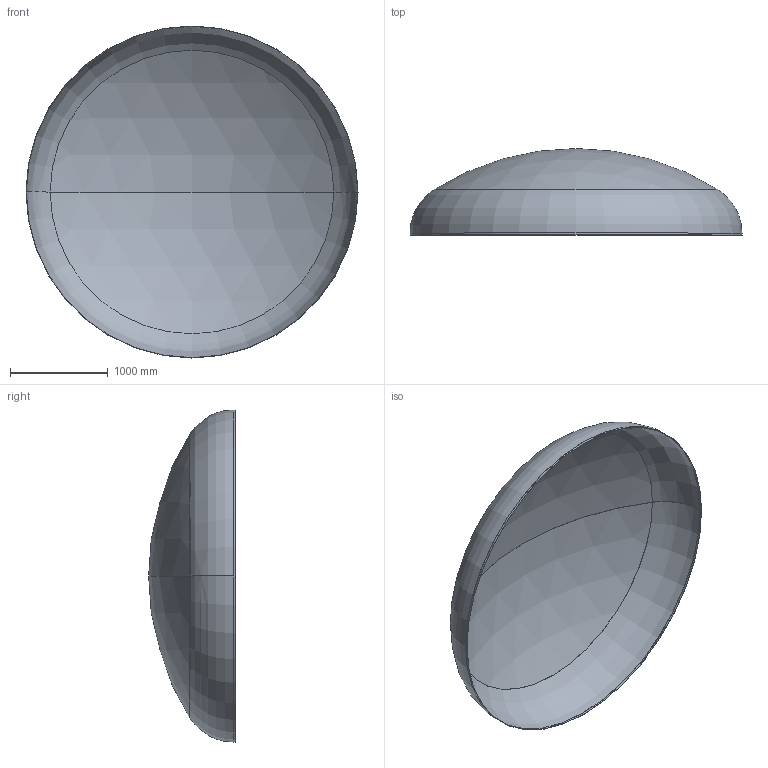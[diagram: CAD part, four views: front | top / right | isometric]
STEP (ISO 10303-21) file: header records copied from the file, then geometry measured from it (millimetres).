
FILE_DESCRIPTION (( 'STEP AP203' ), '1' );
FILE_NAME ('DIN 28013 Korbbogenform_-_Boden DIN 28013 - 3400 x 20 - I - s=3.step', '2016-07-01T19:05:21', ( '' ), ( '' ), 'SwSTEP 2.0', 'SolidWorks 2013', '' );
FILE_SCHEMA (( 'CONFIG_CONTROL_DESIGN' ));
Length unit declared in the file: millimetre
Products named in the file (1): DIN 28013 Korbbogenform_-_Boden DIN 28013 - 3400 x 20 - I - s=3
Bounding box: 3400 x 887.08 x 3400 mm (x, y, z)
Volume: 38344025.9 mm3; surface area: 25594708.1 mm2
Topology: 1 solids, 1 shells, 13 faces, 24 edges, 14 vertices
Faces by surface type: torus 4, cylinder 4, sphere 4, plane 1
Entity records: 407 total; most frequent: DIRECTION 72, CARTESIAN_POINT 52, ORIENTED_EDGE 48, AXIS2_PLACEMENT_3D 34, EDGE_CURVE 24, CIRCLE 20, EDGE_LOOP 14, VERTEX_POINT 14
